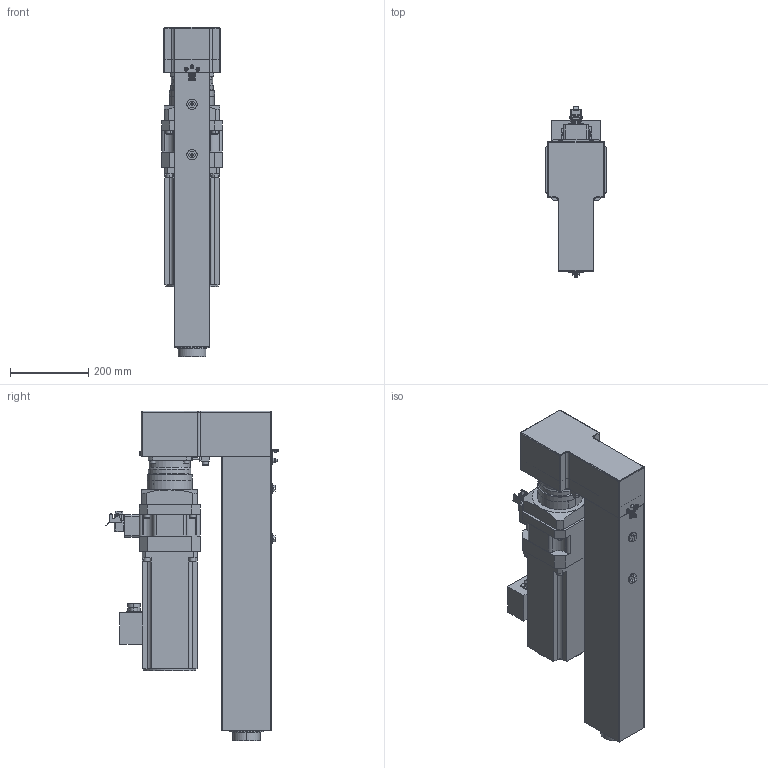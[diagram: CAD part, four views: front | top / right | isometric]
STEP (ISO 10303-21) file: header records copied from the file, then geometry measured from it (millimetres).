
FILE_DESCRIPTION (( 'STEP AP203' ), '1' );
FILE_NAME ('CP5P0500-035-015SXX.STEP', '2018-10-26T10:07:36', ( '' ), ( '' ), 'SwSTEP 2.0', 'SolidWorks 2016', '' );
FILE_SCHEMA (( 'CONFIG_CONTROL_DESIGN' ));
Length unit declared in the file: millimetre
Products named in the file (1): CP5P0500-035-015SXX
Bounding box: 155 x 439.04 x 840 mm (x, y, z)
Volume: 14260880.2 mm3; surface area: 1860309.2 mm2
Topology: 40 solids, 48 shells, 1688 faces, 3929 edges, 2408 vertices
Faces by surface type: plane 798, cylinder 592, cone 224, torus 62, bspline 12
Entity records: 49121 total; most frequent: CARTESIAN_POINT 9969, DIRECTION 8589, ORIENTED_EDGE 7646, EDGE_CURVE 3823, AXIS2_PLACEMENT_3D 3229, VERTEX_POINT 2408, VECTOR 2131, LINE 2131
